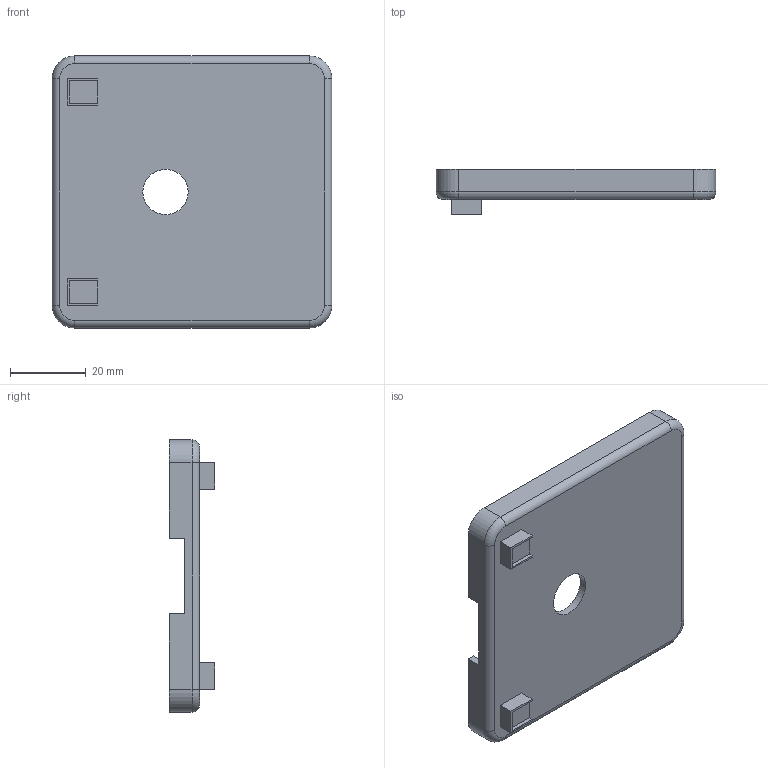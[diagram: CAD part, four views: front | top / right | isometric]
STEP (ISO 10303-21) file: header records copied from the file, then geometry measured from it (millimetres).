
FILE_DESCRIPTION(/* description */ ('Стол'),/* implementation_level */ '2;1');
FILE_NAME(/* name */ 'D:\ \Работа\JuniorSkills\2018\ОтборочныйЗадание\Микроскоп\STEP\Стол.stp',/* time_stamp */ '2017-11-09T06:45:32+07:00',/* author */ ('Andrey'),/* organization */ (''),/* preprocessor_version */ 'ST-DEVELOPER v15.6',/* originating_system */ 'Autodesk Inventor 2015',/* authorisation */ '');
FILE_SCHEMA (('AUTOMOTIVE_DESIGN { 1 0 10303 214 3 1 1 }'));
Length unit declared in the file: millimetre
Products named in the file (1): Стол
Bounding box: 74 x 12 x 72 mm (x, y, z)
Volume: 14031.6 mm3; surface area: 14106.2 mm2
Topology: 1 solids, 1 shells, 57 faces, 149 edges, 96 vertices
Faces by surface type: plane 40, cylinder 13, torus 4
Full cylindrical faces by diameter (mm): 12 x1
Entity records: 1756 total; most frequent: CARTESIAN_POINT 302, ORIENTED_EDGE 296, DIRECTION 294, EDGE_CURVE 148, LINE 118, VECTOR 118, VERTEX_POINT 96, AXIS2_PLACEMENT_3D 88
